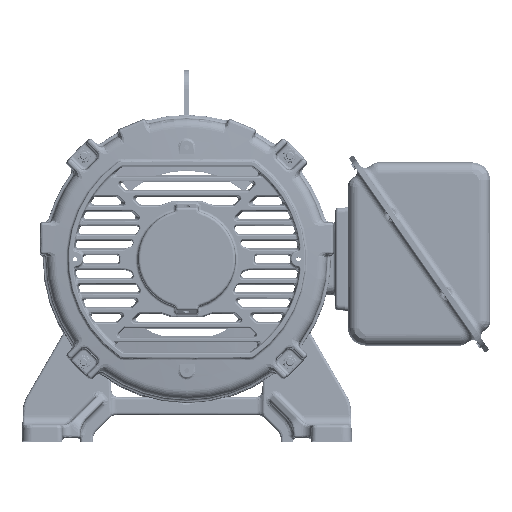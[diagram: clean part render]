
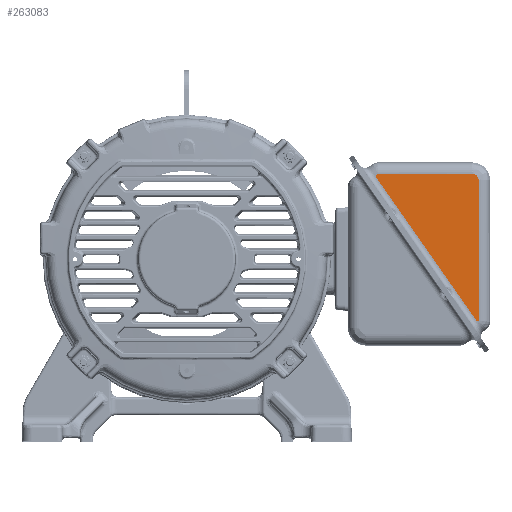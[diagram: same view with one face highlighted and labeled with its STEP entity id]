
A CAD part, top view. The second image highlights one B-rep face of the part: STEP entity #263083.
In plain terms, the highlighted planar face has unit normal (0, 0, 1) as drawn and (-1, 0, 0) by its records, which use the part's own axes.
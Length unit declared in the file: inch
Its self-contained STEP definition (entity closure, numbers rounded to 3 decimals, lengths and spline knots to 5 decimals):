
#260432=DIRECTION('',(0.,-0.819,0.574));
#260433=VECTOR('',#260432,8.75);
#260434=CARTESIAN_POINT('',(-4.0598,3.58782,0.63346));
#260435=LINE('',#260434,#260433);
#260436=DIRECTION('',(0.,0.574,0.819));
#260437=VECTOR('',#260436,0.1922);
#260438=CARTESIAN_POINT('',(-4.0598,-3.69,5.49481));
#260439=LINE('',#260438,#260437);
#260440=DIRECTION('',(0.,0.,1.));
#260441=VECTOR('',#260440,4.62501);
#260442=CARTESIAN_POINT('',(-4.0598,-3.69,0.8698));
#260443=LINE('',#260442,#260441);
#260444=CARTESIAN_POINT('',(-4.0598,-3.3802,0.8698));
#260445=DIRECTION('',(-1.,0.,0.));
#260446=DIRECTION('',(0.,0.,-1.));
#260447=AXIS2_PLACEMENT_3D('',#260444,#260445,#260446);
#260449=DIRECTION('',(0.,-1.,0.));
#260450=VECTOR('',#260449,6.91659);
#260451=CARTESIAN_POINT('',(-4.0598,3.53639,0.56));
#260452=LINE('',#260451,#260450);
#260453=DIRECTION('',(0.,-0.574,-0.819));
#260454=VECTOR('',#260453,0.08967);
#260455=CARTESIAN_POINT('',(-4.0598,3.58782,0.63346));
#260456=LINE('',#260455,#260454);
#262399=CARTESIAN_POINT('',(-4.0598,3.53639,0.56));
#262442=CARTESIAN_POINT('',(-4.0598,-3.69,5.49481));
#262812=CARTESIAN_POINT('',(-4.0598,-3.3802,0.56));
#262813=CARTESIAN_POINT('',(-4.0598,-3.69,0.8698));
#262814=VERTEX_POINT('',#262812);
#262815=VERTEX_POINT('',#262813);
#262821=VERTEX_POINT('',#262399);
#262829=VERTEX_POINT('',#262442);
#262846=CARTESIAN_POINT('',(-4.0598,3.58782,0.63346));
#262847=VERTEX_POINT('',#262846);
#262852=CARTESIAN_POINT('',(-4.0598,-3.57976,5.65225));
#262853=VERTEX_POINT('',#262852);
#263064=CARTESIAN_POINT('',(-4.0598,0.,0.));
#263065=DIRECTION('',(1.,0.,0.));
#263066=DIRECTION('',(0.,0.,-1.));
#263067=AXIS2_PLACEMENT_3D('',#263064,#263065,#263066);
#263068=PLANE('',#263067);
#263070=ORIENTED_EDGE('',*,*,#263069,.T.);
#263072=ORIENTED_EDGE('',*,*,#263071,.F.);
#263074=ORIENTED_EDGE('',*,*,#263073,.F.);
#263076=ORIENTED_EDGE('',*,*,#263075,.F.);
#263078=ORIENTED_EDGE('',*,*,#263077,.F.);
#263080=ORIENTED_EDGE('',*,*,#263079,.F.);
#263081=EDGE_LOOP('',(#263070,#263072,#263074,#263076,#263078,#263080));
#263082=FACE_OUTER_BOUND('',#263081,.F.);
#263083=ADVANCED_FACE('',(#263082),#263068,.F.);
#260448=CIRCLE('',#260447,0.3098);
#263069=EDGE_CURVE('',#262847,#262853,#260435,.T.);
#263071=EDGE_CURVE('',#262829,#262853,#260439,.T.);
#263073=EDGE_CURVE('',#262815,#262829,#260443,.T.);
#263075=EDGE_CURVE('',#262814,#262815,#260448,.T.);
#263077=EDGE_CURVE('',#262821,#262814,#260452,.T.);
#263079=EDGE_CURVE('',#262847,#262821,#260456,.T.);
